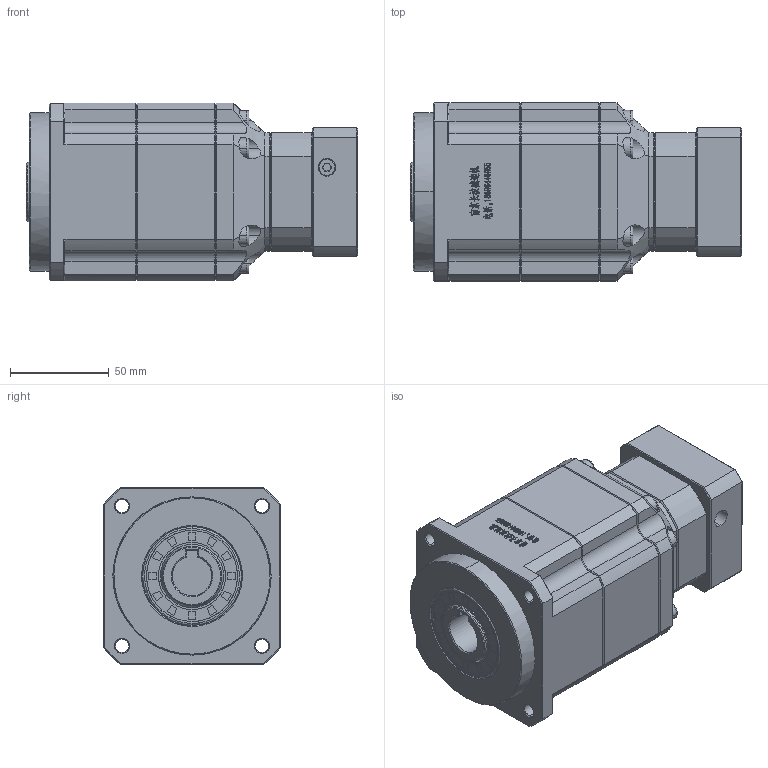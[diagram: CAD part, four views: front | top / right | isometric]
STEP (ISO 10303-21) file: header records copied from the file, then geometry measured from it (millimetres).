
FILE_DESCRIPTION (( 'STEP AP214' ), '1' );
FILE_NAME ('ZPB090-K20-L3-P1-14-60-75-M6.step', '2024-06-07T18:27:49', ( 'Windows 蚚誧' ), ( 'Organization' ), 'SwSTEP 2.0', 'SolidWorks 2016', '' );
FILE_SCHEMA (( 'AUTOMOTIVE_DESIGN' ));
Length unit declared in the file: millimetre
Products named in the file (1): ZPB090-K20-L3-P1-14-60-75-M6
Bounding box: 167.5 x 90 x 90 mm (x, y, z)
Surface area: 79266.5 mm2 (no closed solid volume)
Topology: 0 solids, 1 shells, 1941 faces, 5220 edges, 3344 vertices
Faces by surface type: plane 1108, bspline 376, cylinder 232, cone 203, torus 22
Entity records: 93326 total; most frequent: CARTESIAN_POINT 45173, ORIENTED_EDGE 10402, DIRECTION 7428, EDGE_CURVE 5220, VERTEX_POINT 3344, VECTOR 3076, LINE 3076, AXIS2_PLACEMENT_3D 2176
